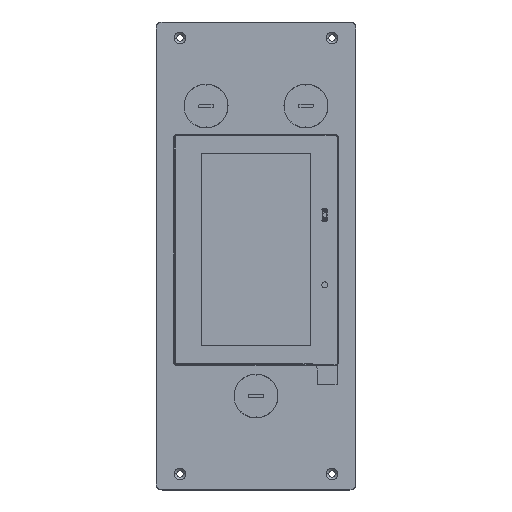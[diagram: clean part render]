
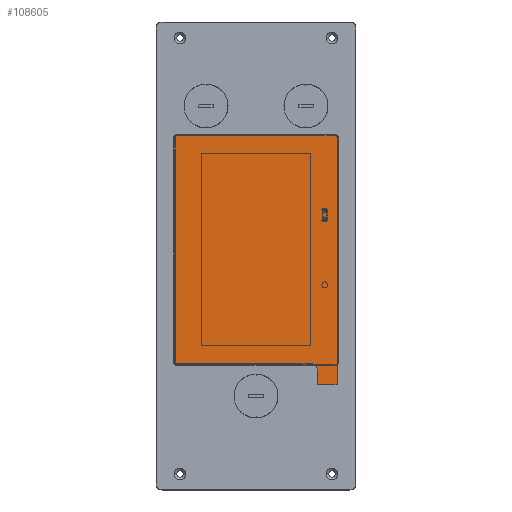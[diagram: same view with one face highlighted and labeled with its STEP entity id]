
A CAD part, top view. The second image highlights one B-rep face of the part: STEP entity #108605.
In plain terms, the highlighted free-form (B-spline) face has degree [1, 1] with [2, 2] control points.
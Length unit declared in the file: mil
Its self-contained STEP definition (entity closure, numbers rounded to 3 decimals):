
#439 = CARTESIAN_POINT ( 'NONE',  ( -1573.475, 2363.138, 118.504 ) ) ;
#1318 = CARTESIAN_POINT ( 'NONE',  ( -1573.475, 2363.138, 118.504 ) ) ;
#3881 = CARTESIAN_POINT ( 'NONE',  ( 1103.69, -2125.051, 118.504 ) ) ;
#5319 = CARTESIAN_POINT ( 'NONE',  ( -1593.16, 2343.453, 118.504 ) ) ;
#6455 = CARTESIAN_POINT ( 'NONE',  ( 1595.816, -2538.436, 118.504 ) ) ;
#10461 = B_SPLINE_CURVE_WITH_KNOTS ( 'NONE', 1,
 ( #112746, #104886 ),
 .UNSPECIFIED., .F., .F.,
 ( 2, 2 ),
 ( 0., 1. ),
 .UNSPECIFIED. ) ;
#11508 = CARTESIAN_POINT ( 'NONE',  ( 1202.116, -2223.476, 118.504 ) ) ;
#17735 = CARTESIAN_POINT ( 'NONE',  ( 1576.131, 2363.138, 118.504 ) ) ;
#19601 = B_SPLINE_CURVE_WITH_KNOTS ( 'NONE', 1,
 ( #78802, #43436 ),
 .UNSPECIFIED., .F., .F.,
 ( 2, 2 ),
 ( 0., 1. ),
 .UNSPECIFIED. ) ;
#20233 = CARTESIAN_POINT ( 'NONE',  ( 1595.816, 2343.453, 118.504 ) ) ;
#20499 = CARTESIAN_POINT ( 'NONE',  ( 1129.415, -2127.597, 118.504 ) ) ;
#21192 = CARTESIAN_POINT ( 'NONE',  ( 1202.116, -2223.476, 118.504 ) ) ;
#21545 = EDGE_CURVE ( 'NONE', #41830, #131135, #52546, .T. ) ;
#21959 = CARTESIAN_POINT ( 'NONE',  ( 1576.131, 2363.138, 118.504 ) ) ;
#24157 = ORIENTED_EDGE ( 'NONE', *, *, #80704, .T. ) ;
#24158 = EDGE_CURVE ( 'NONE', #131135, #94768, #19601, .T. ) ;
#25791 = CARTESIAN_POINT ( 'NONE',  ( 1595.816, 2348.674, 118.504 ) ) ;
#26922 = CARTESIAN_POINT ( 'NONE',  ( -1578.696, -2125.051, 118.504 ) ) ;
#28318 = CARTESIAN_POINT ( 'NONE',  ( -1593.16, -2110.586, 118.504 ) ) ;
#30592 = ORIENTED_EDGE ( 'NONE', *, *, #59621, .T. ) ;
#31818 = CARTESIAN_POINT ( 'NONE',  ( 1202.116, -2210.55, 118.504 ) ) ;
#32171 = B_SPLINE_SURFACE_WITH_KNOTS ( 'NONE', 1, 1, ( 
 ( #129438, #75610 ),
 ( #118838, #119547 ) ),
 .UNSPECIFIED., .F., .F., .F.,
 ( 2, 2 ),
 ( 2, 2 ),
 ( 0., 1. ),
 ( 0., 1. ),
 .UNSPECIFIED. ) ;
#32249 = CARTESIAN_POINT ( 'NONE',  ( 1595.816, -2538.436, 118.504 ) ) ;
#33541 = ORIENTED_EDGE ( 'NONE', *, *, #24158, .T. ) ;
#37733 = B_SPLINE_CURVE_WITH_KNOTS ( 'NONE', 1,
 ( #32249, #20233 ),
 .UNSPECIFIED., .F., .F.,
 ( 2, 2 ),
 ( 0., 1. ),
 .UNSPECIFIED. ) ;
#39374 = EDGE_CURVE ( 'NONE', #97828, #56428, #117838, .T. ) ;
#41830 = VERTEX_POINT ( 'NONE', #119356 ) ;
#42119 = CARTESIAN_POINT ( 'NONE',  ( -1593.16, 2348.674, 118.504 ) ) ;
#42821 = CARTESIAN_POINT ( 'NONE',  ( 1202.116, -2223.476, 118.504 ) ) ;
#43436 = CARTESIAN_POINT ( 'NONE',  ( 1103.69, -2125.051, 118.504 ) ) ;
#50413 = EDGE_CURVE ( 'NONE', #94768, #97828, #84330, .T. ) ;
#50496 = ORIENTED_EDGE ( 'NONE', *, *, #50413, .T. ) ;
#52546 = B_SPLINE_CURVE_WITH_KNOTS ( 'NONE', 3,
 ( #125321, #28318, #83524, #103424, #26922, #114749 ),
 .UNSPECIFIED., .F., .F.,
 ( 4, 2, 4 ),
 ( 3.142, 3.927, 4.712 ),
 .UNSPECIFIED. ) ;
#53007 = CARTESIAN_POINT ( 'NONE',  ( -1573.475, -2125.051, 118.504 ) ) ;
#53118 = CARTESIAN_POINT ( 'NONE',  ( 1164.148, -2144.739, 118.504 ) ) ;
#53836 = CARTESIAN_POINT ( 'NONE',  ( 1153.298, -2137.489, 118.504 ) ) ;
#54454 = FACE_OUTER_BOUND ( 'NONE', #134213, .T. ) ;
#56428 = VERTEX_POINT ( 'NONE', #105547 ) ;
#58936 = EDGE_CURVE ( 'NONE', #111590, #123244, #135520, .T. ) ;
#59621 = EDGE_CURVE ( 'NONE', #112999, #41830, #10461, .T. ) ;
#60488 = CARTESIAN_POINT ( 'NONE',  ( 1576.131, 2363.138, 118.504 ) ) ;
#61293 = CARTESIAN_POINT ( 'NONE',  ( -1593.16, 2343.453, 118.504 ) ) ;
#61383 = ORIENTED_EDGE ( 'NONE', *, *, #58936, .T. ) ;
#65191 = EDGE_CURVE ( 'NONE', #123244, #112999, #65969, .T. ) ;
#65308 = CARTESIAN_POINT ( 'NONE',  ( 1202.116, -2538.436, 118.504 ) ) ;
#65969 = B_SPLINE_CURVE_WITH_KNOTS ( 'NONE', 3,
 ( #94543, #83205, #139125, #106550, #42119, #61293 ),
 .UNSPECIFIED., .F., .F.,
 ( 4, 2, 4 ),
 ( 1.571, 2.356, 3.142 ),
 .UNSPECIFIED. ) ;
#69005 = CARTESIAN_POINT ( 'NONE',  ( 1581.352, 2363.138, 118.504 ) ) ;
#73949 = B_SPLINE_CURVE_WITH_KNOTS ( 'NONE', 3,
 ( #124881, #25791, #102283, #90953, #69005, #60488 ),
 .UNSPECIFIED., .F., .F.,
 ( 4, 2, 4 ),
 ( 0., 0.785, 1.571 ),
 .UNSPECIFIED. ) ;
#74322 = CARTESIAN_POINT ( 'NONE',  ( 1103.69, -2125.051, 118.504 ) ) ;
#75179 = CARTESIAN_POINT ( 'NONE',  ( 1595.816, -2538.436, 118.504 ) ) ;
#75610 = CARTESIAN_POINT ( 'NONE',  ( 1595.816, 2363.138, 118.504 ) ) ;
#77125 = EDGE_CURVE ( 'NONE', #138959, #111590, #73949, .T. ) ;
#77415 = B_SPLINE_CURVE_WITH_KNOTS ( 'NONE', 1,
 ( #65308, #75179 ),
 .UNSPECIFIED., .F., .F.,
 ( 2, 2 ),
 ( 0., 1. ),
 .UNSPECIFIED. ) ;
#78802 = CARTESIAN_POINT ( 'NONE',  ( -1573.475, -2125.051, 118.504 ) ) ;
#80704 = EDGE_CURVE ( 'NONE', #94216, #138959, #37733, .T. ) ;
#83205 = CARTESIAN_POINT ( 'NONE',  ( -1578.696, 2363.138, 118.504 ) ) ;
#83524 = CARTESIAN_POINT ( 'NONE',  ( -1591.086, -2115.593, 118.504 ) ) ;
#83576 = EDGE_CURVE ( 'NONE', #56428, #94216, #77415, .T. ) ;
#84330 = B_SPLINE_CURVE_WITH_KNOTS ( 'NONE', 3,
 ( #74322, #117538, #20499, #53836, #53118, #85639, #96290, #128822, #31818, #21192 ),
 .UNSPECIFIED., .F., .F.,
 ( 4, 2, 2, 2, 4 ),
 ( 0., 0.393, 0.785, 1.178, 1.571 ),
 .UNSPECIFIED. ) ;
#85639 = CARTESIAN_POINT ( 'NONE',  ( 1182.427, -2163.018, 118.504 ) ) ;
#86689 = CARTESIAN_POINT ( 'NONE',  ( 1202.116, -2538.436, 118.504 ) ) ;
#86897 = ORIENTED_EDGE ( 'NONE', *, *, #21545, .T. ) ;
#90953 = CARTESIAN_POINT ( 'NONE',  ( 1586.359, 2361.064, 118.504 ) ) ;
#94216 = VERTEX_POINT ( 'NONE', #6455 ) ;
#94543 = CARTESIAN_POINT ( 'NONE',  ( -1573.475, 2363.138, 118.504 ) ) ;
#94768 = VERTEX_POINT ( 'NONE', #3881 ) ;
#96290 = CARTESIAN_POINT ( 'NONE',  ( 1189.677, -2173.869, 118.504 ) ) ;
#97828 = VERTEX_POINT ( 'NONE', #11508 ) ;
#98885 = ORIENTED_EDGE ( 'NONE', *, *, #77125, .T. ) ;
#99189 = CARTESIAN_POINT ( 'NONE',  ( 1595.816, 2343.453, 118.504 ) ) ;
#99925 = ORIENTED_EDGE ( 'NONE', *, *, #39374, .T. ) ;
#102283 = CARTESIAN_POINT ( 'NONE',  ( 1593.742, 2353.681, 118.504 ) ) ;
#103424 = CARTESIAN_POINT ( 'NONE',  ( -1583.703, -2122.977, 118.504 ) ) ;
#104886 = CARTESIAN_POINT ( 'NONE',  ( -1593.16, -2105.366, 118.504 ) ) ;
#105547 = CARTESIAN_POINT ( 'NONE',  ( 1202.116, -2538.436, 118.504 ) ) ;
#106550 = CARTESIAN_POINT ( 'NONE',  ( -1591.086, 2353.681, 118.504 ) ) ;
#108605 = ADVANCED_FACE ( 'NONE', ( #54454 ), #32171, .T. ) ;
#111590 = VERTEX_POINT ( 'NONE', #17735 ) ;
#112746 = CARTESIAN_POINT ( 'NONE',  ( -1593.16, 2343.453, 118.504 ) ) ;
#112999 = VERTEX_POINT ( 'NONE', #5319 ) ;
#114749 = CARTESIAN_POINT ( 'NONE',  ( -1573.475, -2125.051, 118.504 ) ) ;
#117538 = CARTESIAN_POINT ( 'NONE',  ( 1116.616, -2125.051, 118.504 ) ) ;
#117838 = B_SPLINE_CURVE_WITH_KNOTS ( 'NONE', 1,
 ( #42821, #86689 ),
 .UNSPECIFIED., .F., .F.,
 ( 2, 2 ),
 ( 0., 1. ),
 .UNSPECIFIED. ) ;
#118838 = CARTESIAN_POINT ( 'NONE',  ( -1593.16, -2538.436, 118.504 ) ) ;
#119356 = CARTESIAN_POINT ( 'NONE',  ( -1593.16, -2105.366, 118.504 ) ) ;
#119547 = CARTESIAN_POINT ( 'NONE',  ( 1595.816, -2538.436, 118.504 ) ) ;
#123244 = VERTEX_POINT ( 'NONE', #439 ) ;
#124881 = CARTESIAN_POINT ( 'NONE',  ( 1595.816, 2343.453, 118.504 ) ) ;
#125321 = CARTESIAN_POINT ( 'NONE',  ( -1593.16, -2105.366, 118.504 ) ) ;
#128822 = CARTESIAN_POINT ( 'NONE',  ( 1199.57, -2197.752, 118.504 ) ) ;
#129438 = CARTESIAN_POINT ( 'NONE',  ( -1593.16, 2363.138, 118.504 ) ) ;
#131135 = VERTEX_POINT ( 'NONE', #53007 ) ;
#134213 = EDGE_LOOP ( 'NONE', ( #86897, #33541, #50496, #99925, #138520, #24157, #98885, #61383, #135239, #30592 ) ) ;
#135239 = ORIENTED_EDGE ( 'NONE', *, *, #65191, .T. ) ;
#135520 = B_SPLINE_CURVE_WITH_KNOTS ( 'NONE', 1,
 ( #21959, #1318 ),
 .UNSPECIFIED., .F., .F.,
 ( 2, 2 ),
 ( 0., 1. ),
 .UNSPECIFIED. ) ;
#138520 = ORIENTED_EDGE ( 'NONE', *, *, #83576, .T. ) ;
#138959 = VERTEX_POINT ( 'NONE', #99189 ) ;
#139125 = CARTESIAN_POINT ( 'NONE',  ( -1583.703, 2361.064, 118.504 ) ) ;
